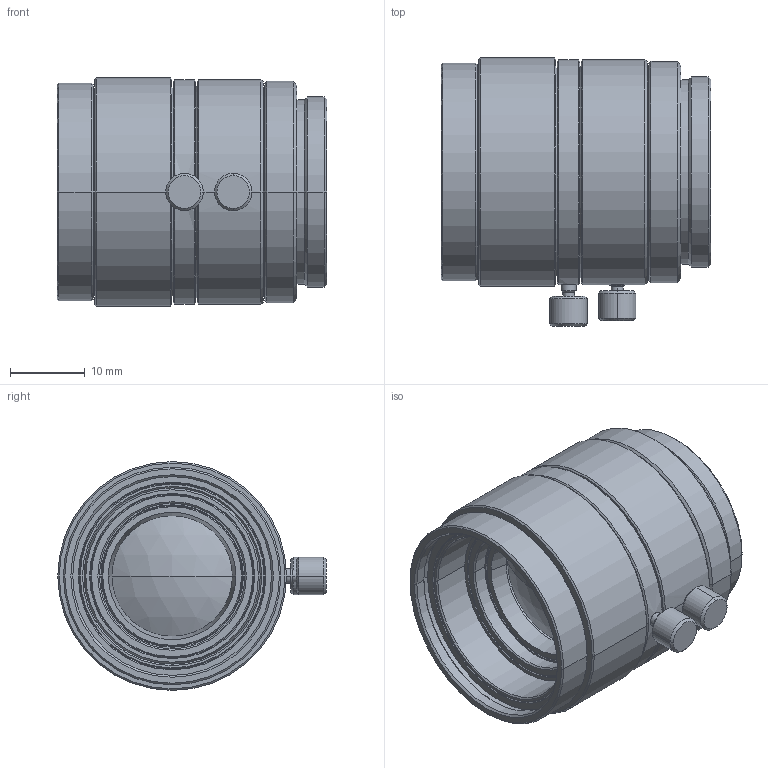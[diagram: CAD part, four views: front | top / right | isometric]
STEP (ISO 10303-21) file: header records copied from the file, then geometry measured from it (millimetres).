
FILE_DESCRIPTION (( 'STEP AP203' ), '1' );
FILE_NAME ('VS-LDA30.STEP', '2016-11-08T06:34:24', ( '' ), ( '' ), 'SwSTEP 2.0', 'SolidWorks 2016', '' );
FILE_SCHEMA (( 'CONFIG_CONTROL_DESIGN' ));
Length unit declared in the file: millimetre
Products named in the file (1): VS-LDA30
Bounding box: 36 x 35.8 x 30.5 mm (x, y, z)
Volume: 18920.9 mm3; surface area: 7184.6 mm2
Topology: 1 solids, 1 shells, 162 faces, 326 edges, 190 vertices
Faces by surface type: cone 88, cylinder 44, plane 26, sphere 4
Entity records: 4331 total; most frequent: DIRECTION 832, CARTESIAN_POINT 745, ORIENTED_EDGE 652, AXIS2_PLACEMENT_3D 349, EDGE_CURVE 326, VERTEX_POINT 190, EDGE_LOOP 186, CIRCLE 186
